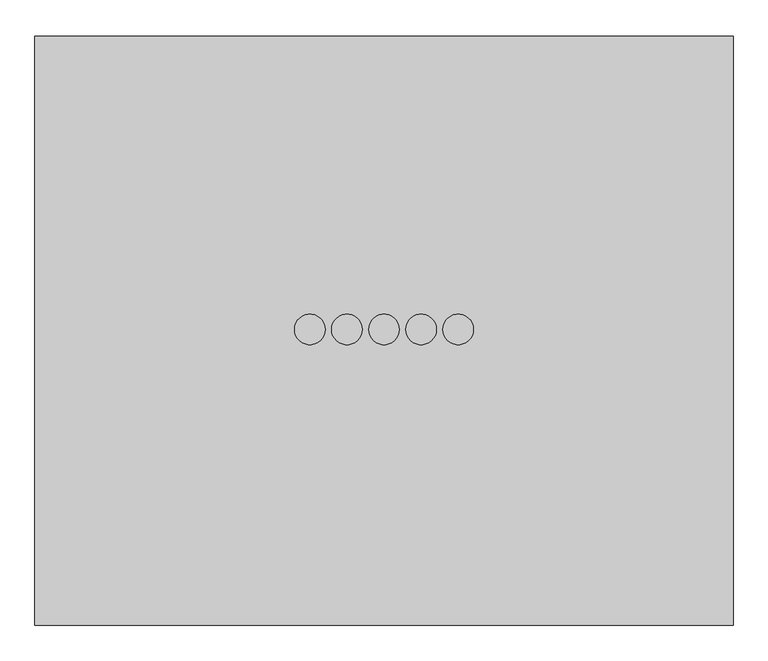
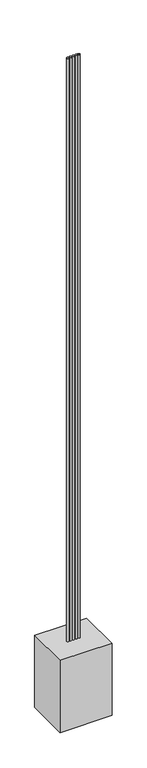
"""IFC4 building model written with IfcOpenShell, lengths in millimetres: proxy geometry, EE112-승강기 리프트카 : EE112-승객용 엘리베이터 (13인승) 1600x1350."""

from ifc_helpers import new_model, si_unit, point, frame, frame_2d, origin, origin_with_axes, origin_2d, place, context, project, spatial, polyline, circle_curve, trimmed, segment, composite_curve, outline, extrude, source, transform, mapped, element, save


def generic_models_01ea2401(model_context):
    return source(origin(), model_context, "Body", "SweptSolid", [
        extrude(outline(composite_curve([segment(trimmed(circle_curve(frame_2d((170.0, 0.0)), 35.0), [point((205.0, 0.0))], [point((135.0, 0.0))], False, "CARTESIAN"), True, "CONTINUOUS"), segment(trimmed(circle_curve(frame_2d((170.0, 0.0)), 35.0), [point((135.0, 0.0))], [point((205.0, 0.0))], False, "CARTESIAN"), True, "CONTINUOUS")], self_intersect=False)), frame((0.0, 0.0, 2350.0), z_axis=(0.0, 0.0, 1.0), x_axis=(1.0, 0.0, 0.0)), (0.0, 0.0, 1.0), 19000.0),
        extrude(outline(composite_curve([segment(trimmed(circle_curve(frame_2d((85.0, 0.0)), 35.0), [point((120.0, 0.0))], [point((50.0, 0.0))], False, "CARTESIAN"), True, "CONTINUOUS"), segment(trimmed(circle_curve(frame_2d((85.0, 0.0)), 35.0), [point((50.0, 0.0))], [point((120.0, 0.0))], False, "CARTESIAN"), True, "CONTINUOUS")], self_intersect=False)), frame((0.0, 0.0, 2350.0), z_axis=(0.0, 0.0, 1.0), x_axis=(1.0, 0.0, 0.0)), (0.0, 0.0, 1.0), 19000.0),
        extrude(outline(composite_curve([segment(trimmed(circle_curve(frame_2d((-170.0, 0.0)), 35.0), [point((-205.0, 0.0))], [point((-135.0, 0.0))], False, "CARTESIAN"), True, "CONTINUOUS"), segment(trimmed(circle_curve(frame_2d((-170.0, 0.0)), 35.0), [point((-135.0, 0.0))], [point((-205.0, 0.0))], False, "CARTESIAN"), True, "CONTINUOUS")], self_intersect=False)), frame((0.0, 0.0, 2350.0), z_axis=(0.0, 0.0, 1.0), x_axis=(1.0, 0.0, 0.0)), (0.0, 0.0, 1.0), 19000.0),
        extrude(outline(composite_curve([segment(trimmed(circle_curve(frame_2d((-85.0, 0.0)), 35.0), [point((-120.0, 0.0))], [point((-50.0, 0.0))], False, "CARTESIAN"), True, "CONTINUOUS"), segment(trimmed(circle_curve(frame_2d((-85.0, 0.0)), 35.0), [point((-50.0, 0.0))], [point((-120.0, 0.0))], False, "CARTESIAN"), True, "CONTINUOUS")], self_intersect=False)), frame((0.0, 0.0, 2350.0), z_axis=(0.0, 0.0, 1.0), x_axis=(1.0, 0.0, 0.0)), (0.0, 0.0, 1.0), 19000.0),
        extrude(outline(composite_curve([segment(trimmed(circle_curve(origin_2d(), 35.0), [point((-35.0, 0.0))], [point((35.0, 0.0))], False, "CARTESIAN"), True, "CONTINUOUS"), segment(trimmed(circle_curve(origin_2d(), 35.0), [point((35.0, 0.0))], [point((-35.0, 0.0))], False, "CARTESIAN"), True, "CONTINUOUS")], self_intersect=False)), frame((0.0, 0.0, 2350.0), z_axis=(0.0, 0.0, 1.0), x_axis=(1.0, 0.0, 0.0)), (0.0, 0.0, 1.0), 19000.0),
        extrude(outline(polyline([(800.0, 675.0), (800.0, -675.0), (-800.0, -675.0), (-800.0, 675.0), (800.0, 675.0)])), origin_with_axes(), (0.0, 0.0, 1.0), 2350.0),
    ])


if __name__ == "__main__":
    model = new_model("IFC4")
    model_context = context("Model", 3, world=origin())
    ifc_project = project(units=[si_unit("LENGTHUNIT", "METRE", prefix="MILLI")], contexts=[model_context])
    site = spatial("IfcSite", under=ifc_project)
    building = spatial("IfcBuilding", under=site)
    placement = place(None, origin())
    generic_models_shape = generic_models_01ea2401(model_context)
    element("IfcBuildingElementProxy", 1, Name="EE112-승강기 리프트카 : EE112-승객용 엘리베이터 (13인승) 1600x1350", ObjectType="EE112-승강기 리프트카 : EE112-승객용 엘리베이터 (13인승) 1600x1350", at=placement, inside=building, context=model_context, shape_type="MappedRepresentation", body=[
        mapped(generic_models_shape, transform((0.0, 0.0, 0.0), x_axis=(1.0, 0.0, 0.0), y_axis=(0.0, 1.0, 0.0), z_axis=(0.0, 0.0, 1.0))),
    ])
    save(model, "model.ifc")
